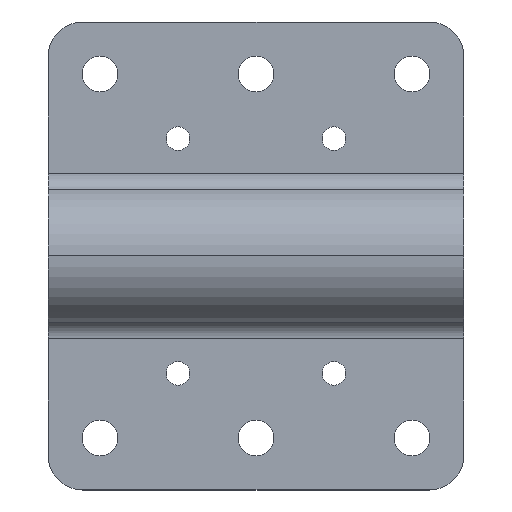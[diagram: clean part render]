
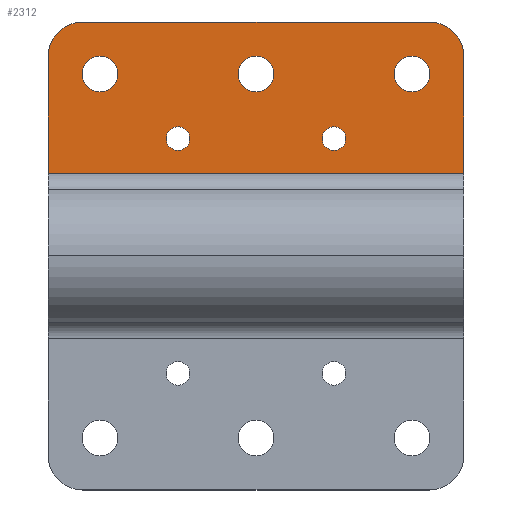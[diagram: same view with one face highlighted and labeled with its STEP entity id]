
A CAD part, top view. The second image highlights one B-rep face of the part: STEP entity #2312.
In plain terms, the highlighted planar face has unit normal (0, 0, 1).
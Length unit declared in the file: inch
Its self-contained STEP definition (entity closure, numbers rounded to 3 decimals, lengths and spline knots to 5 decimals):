
#18 = AXIS2_PLACEMENT_3D ( 'NONE', #1854, #564, #2070 ) ;
#56 = ORIENTED_EDGE ( 'NONE', *, *, #241, .F. ) ;
#66 = ORIENTED_EDGE ( 'NONE', *, *, #2049, .F. ) ;
#76 = DIRECTION ( 'NONE',  ( 0., 0., 1. ) ) ;
#82 = DIRECTION ( 'NONE',  ( 0., 0., -1. ) ) ;
#183 = FACE_BOUND ( 'NONE', #242, .T. ) ;
#203 = ORIENTED_EDGE ( 'NONE', *, *, #1232, .F. ) ;
#209 = DIRECTION ( 'NONE',  ( 0., -1., 0. ) ) ;
#213 = CARTESIAN_POINT ( 'NONE',  ( -1.25, 3.725, 0.125 ) ) ;
#229 = CARTESIAN_POINT ( 'NONE',  ( -1.5, 0.6, 0.125 ) ) ;
#237 = CARTESIAN_POINT ( 'NONE',  ( 0.1285, 3.35, 0.125 ) ) ;
#241 = EDGE_CURVE ( 'NONE', #1572, #2595, #1199, .T. ) ;
#242 = EDGE_LOOP ( 'NONE', ( #646, #981 ) ) ;
#252 = AXIS2_PLACEMENT_3D ( 'NONE', #1022, #2525, #1225 ) ;
#261 = EDGE_LOOP ( 'NONE', ( #538, #1534 ) ) ;
#280 = DIRECTION ( 'NONE',  ( 0., 0., 1. ) ) ;
#281 = VECTOR ( 'NONE', #2358, 39.37008 ) ;
#282 = EDGE_LOOP ( 'NONE', ( #1956, #1488 ) ) ;
#308 = EDGE_CURVE ( 'NONE', #856, #1477, #1074, .T. ) ;
#391 = EDGE_CURVE ( 'NONE', #1885, #2517, #877, .T. ) ;
#395 = CARTESIAN_POINT ( 'NONE',  ( -1.125, 3.35, 0.125 ) ) ;
#439 = VERTEX_POINT ( 'NONE', #1292 ) ;
#483 = EDGE_CURVE ( 'NONE', #2249, #2713, #1808, .T. ) ;
#496 = AXIS2_PLACEMENT_3D ( 'NONE', #1573, #280, #1794 ) ;
#505 = VECTOR ( 'NONE', #843, 39.37008 ) ;
#538 = ORIENTED_EDGE ( 'NONE', *, *, #1913, .F. ) ;
#541 = PLANE ( 'NONE',  #2086 ) ;
#562 = CIRCLE ( 'NONE', #252, 0.085 ) ;
#564 = DIRECTION ( 'NONE',  ( 0., 0., 1. ) ) ;
#600 = DIRECTION ( 'NONE',  ( 0., 0., 1. ) ) ;
#621 = DIRECTION ( 'NONE',  ( -1., 0., 0. ) ) ;
#623 = DIRECTION ( 'NONE',  ( 0., 0., 1. ) ) ;
#646 = ORIENTED_EDGE ( 'NONE', *, *, #391, .F. ) ;
#648 = CARTESIAN_POINT ( 'NONE',  ( -0.1285, 3.35, 0.125 ) ) ;
#649 = VERTEX_POINT ( 'NONE', #2696 ) ;
#652 = CARTESIAN_POINT ( 'NONE',  ( -1.125, 3.35, 0.125 ) ) ;
#655 = AXIS2_PLACEMENT_3D ( 'NONE', #1889, #600, #2105 ) ;
#720 = AXIS2_PLACEMENT_3D ( 'NONE', #2391, #1104, #2605 ) ;
#758 = FACE_OUTER_BOUND ( 'NONE', #1784, .T. ) ;
#789 = CARTESIAN_POINT ( 'NONE',  ( -1.2535, 3.35, 0.125 ) ) ;
#840 = FACE_BOUND ( 'NONE', #1571, .T. ) ;
#843 = DIRECTION ( 'NONE',  ( 1., 0., 0. ) ) ;
#856 = VERTEX_POINT ( 'NONE', #2756 ) ;
#864 = DIRECTION ( 'NONE',  ( -1., 0., 0. ) ) ;
#877 = CIRCLE ( 'NONE', #2655, 0.1285 ) ;
#891 = AXIS2_PLACEMENT_3D ( 'NONE', #1354, #76, #1576 ) ;
#895 = DIRECTION ( 'NONE',  ( 0., 0., 1. ) ) ;
#928 = CIRCLE ( 'NONE', #1447, 0.1285 ) ;
#938 = VECTOR ( 'NONE', #209, 39.37008 ) ;
#948 = ORIENTED_EDGE ( 'NONE', *, *, #483, .F. ) ;
#972 = CIRCLE ( 'NONE', #2442, 0.25 ) ;
#981 = ORIENTED_EDGE ( 'NONE', *, *, #2514, .F. ) ;
#989 = ORIENTED_EDGE ( 'NONE', *, *, #1373, .F. ) ;
#999 = LINE ( 'NONE', #1918, #281 ) ;
#1022 = CARTESIAN_POINT ( 'NONE',  ( -0.5625, 2.88371, 0.125 ) ) ;
#1033 = ORIENTED_EDGE ( 'NONE', *, *, #1174, .F. ) ;
#1074 = LINE ( 'NONE', #1466, #505 ) ;
#1084 = CARTESIAN_POINT ( 'NONE',  ( 1.125, 3.35, 0.125 ) ) ;
#1104 = DIRECTION ( 'NONE',  ( 0., 0., -1. ) ) ;
#1146 = EDGE_CURVE ( 'NONE', #649, #1362, #1567, .T. ) ;
#1174 = EDGE_CURVE ( 'NONE', #2713, #2249, #2016, .T. ) ;
#1179 = CARTESIAN_POINT ( 'NONE',  ( 1.25, 3.725, 0.125 ) ) ;
#1199 = CIRCLE ( 'NONE', #655, 0.1285 ) ;
#1225 = DIRECTION ( 'NONE',  ( -1., 0., 0. ) ) ;
#1232 = EDGE_CURVE ( 'NONE', #1441, #439, #2379, .T. ) ;
#1289 = DIRECTION ( 'NONE',  ( -1., 0., 0. ) ) ;
#1292 = CARTESIAN_POINT ( 'NONE',  ( 1.5, 3.475, 0.125 ) ) ;
#1314 = CARTESIAN_POINT ( 'NONE',  ( 0.9965, 3.35, 0.125 ) ) ;
#1354 = CARTESIAN_POINT ( 'NONE',  ( 1.125, 3.35, 0.125 ) ) ;
#1362 = VERTEX_POINT ( 'NONE', #1790 ) ;
#1370 = ORIENTED_EDGE ( 'NONE', *, *, #2369, .F. ) ;
#1371 = CARTESIAN_POINT ( 'NONE',  ( -1.25, 3.475, 0.125 ) ) ;
#1373 = EDGE_CURVE ( 'NONE', #1928, #1502, #972, .T. ) ;
#1387 = DIRECTION ( 'NONE',  ( 0., 1., 0. ) ) ;
#1425 = VECTOR ( 'NONE', #1932, 39.37008 ) ;
#1441 = VERTEX_POINT ( 'NONE', #1179 ) ;
#1447 = AXIS2_PLACEMENT_3D ( 'NONE', #395, #1903, #621 ) ;
#1466 = CARTESIAN_POINT ( 'NONE',  ( 1.5, 2.63371, 0.125 ) ) ;
#1477 = VERTEX_POINT ( 'NONE', #2364 ) ;
#1488 = ORIENTED_EDGE ( 'NONE', *, *, #2223, .F. ) ;
#1502 = VERTEX_POINT ( 'NONE', #213 ) ;
#1520 = EDGE_CURVE ( 'NONE', #1928, #856, #2082, .T. ) ;
#1534 = ORIENTED_EDGE ( 'NONE', *, *, #1552, .F. ) ;
#1552 = EDGE_CURVE ( 'NONE', #2310, #2215, #2641, .T. ) ;
#1567 = CIRCLE ( 'NONE', #2365, 0.085 ) ;
#1571 = EDGE_LOOP ( 'NONE', ( #1033, #948 ) ) ;
#1572 = VERTEX_POINT ( 'NONE', #237 ) ;
#1573 = CARTESIAN_POINT ( 'NONE',  ( 0.5625, 2.88371, 0.125 ) ) ;
#1576 = DIRECTION ( 'NONE',  ( -1., 0., 0. ) ) ;
#1584 = DIRECTION ( 'NONE',  ( -1., 0., 0. ) ) ;
#1599 = CARTESIAN_POINT ( 'NONE',  ( 1.5, 0., 0.125 ) ) ;
#1749 = ORIENTED_EDGE ( 'NONE', *, *, #1520, .T. ) ;
#1784 = EDGE_LOOP ( 'NONE', ( #989, #1749, #2186, #2576, #203, #66 ) ) ;
#1790 = CARTESIAN_POINT ( 'NONE',  ( 0.6475, 2.88371, 0.125 ) ) ;
#1794 = DIRECTION ( 'NONE',  ( -1., 0., 0. ) ) ;
#1808 = CIRCLE ( 'NONE', #891, 0.1285 ) ;
#1836 = CIRCLE ( 'NONE', #18, 0.1285 ) ;
#1854 = CARTESIAN_POINT ( 'NONE',  ( 0., 3.35, 0.125 ) ) ;
#1885 = VERTEX_POINT ( 'NONE', #789 ) ;
#1889 = CARTESIAN_POINT ( 'NONE',  ( 0., 3.35, 0.125 ) ) ;
#1903 = DIRECTION ( 'NONE',  ( 0., 0., 1. ) ) ;
#1905 = CARTESIAN_POINT ( 'NONE',  ( 0.5625, 2.88371, 0.125 ) ) ;
#1913 = EDGE_CURVE ( 'NONE', #2215, #2310, #562, .T. ) ;
#1918 = CARTESIAN_POINT ( 'NONE',  ( 1.5, 0.6, 0.125 ) ) ;
#1928 = VERTEX_POINT ( 'NONE', #2100 ) ;
#1932 = DIRECTION ( 'NONE',  ( 1., 0., 0. ) ) ;
#1956 = ORIENTED_EDGE ( 'NONE', *, *, #1146, .F. ) ;
#1971 = AXIS2_PLACEMENT_3D ( 'NONE', #2179, #895, #2390 ) ;
#2008 = LINE ( 'NONE', #2763, #1425 ) ;
#2016 = CIRCLE ( 'NONE', #2497, 0.1285 ) ;
#2037 = CARTESIAN_POINT ( 'NONE',  ( -0.4775, 2.88371, 0.125 ) ) ;
#2049 = EDGE_CURVE ( 'NONE', #1502, #1441, #2008, .T. ) ;
#2054 = EDGE_CURVE ( 'NONE', #1477, #439, #999, .T. ) ;
#2070 = DIRECTION ( 'NONE',  ( -1., 0., 0. ) ) ;
#2082 = LINE ( 'NONE', #229, #938 ) ;
#2086 = AXIS2_PLACEMENT_3D ( 'NONE', #1599, #2680, #1387 ) ;
#2100 = CARTESIAN_POINT ( 'NONE',  ( -1.5, 3.475, 0.125 ) ) ;
#2105 = DIRECTION ( 'NONE',  ( -1., 0., 0. ) ) ;
#2126 = DIRECTION ( 'NONE',  ( -1., 0., 0. ) ) ;
#2152 = DIRECTION ( 'NONE',  ( 0., 0., 1. ) ) ;
#2179 = CARTESIAN_POINT ( 'NONE',  ( -0.5625, 2.88371, 0.125 ) ) ;
#2186 = ORIENTED_EDGE ( 'NONE', *, *, #308, .T. ) ;
#2203 = CARTESIAN_POINT ( 'NONE',  ( -0.6475, 2.88371, 0.125 ) ) ;
#2215 = VERTEX_POINT ( 'NONE', #2203 ) ;
#2223 = EDGE_CURVE ( 'NONE', #1362, #649, #2667, .T. ) ;
#2249 = VERTEX_POINT ( 'NONE', #2654 ) ;
#2310 = VERTEX_POINT ( 'NONE', #2037 ) ;
#2311 = CARTESIAN_POINT ( 'NONE',  ( -0.9965, 3.35, 0.125 ) ) ;
#2312 = ADVANCED_FACE ( 'NONE', ( #758, #840, #2471, #183, #2399, #2544 ), #541, .F. ) ;
#2358 = DIRECTION ( 'NONE',  ( 0., 1., 0. ) ) ;
#2364 = CARTESIAN_POINT ( 'NONE',  ( 1.5, 2.63371, 0.125 ) ) ;
#2365 = AXIS2_PLACEMENT_3D ( 'NONE', #1905, #623, #2126 ) ;
#2369 = EDGE_CURVE ( 'NONE', #2595, #1572, #1836, .T. ) ;
#2379 = CIRCLE ( 'NONE', #720, 0.25 ) ;
#2390 = DIRECTION ( 'NONE',  ( -1., 0., 0. ) ) ;
#2391 = CARTESIAN_POINT ( 'NONE',  ( 1.25, 3.475, 0.125 ) ) ;
#2399 = FACE_BOUND ( 'NONE', #282, .T. ) ;
#2400 = EDGE_LOOP ( 'NONE', ( #1370, #56 ) ) ;
#2442 = AXIS2_PLACEMENT_3D ( 'NONE', #1371, #82, #1584 ) ;
#2471 = FACE_BOUND ( 'NONE', #2400, .T. ) ;
#2497 = AXIS2_PLACEMENT_3D ( 'NONE', #1084, #2582, #1289 ) ;
#2514 = EDGE_CURVE ( 'NONE', #2517, #1885, #928, .T. ) ;
#2517 = VERTEX_POINT ( 'NONE', #2311 ) ;
#2525 = DIRECTION ( 'NONE',  ( 0., 0., 1. ) ) ;
#2544 = FACE_BOUND ( 'NONE', #261, .T. ) ;
#2576 = ORIENTED_EDGE ( 'NONE', *, *, #2054, .T. ) ;
#2582 = DIRECTION ( 'NONE',  ( 0., 0., 1. ) ) ;
#2595 = VERTEX_POINT ( 'NONE', #648 ) ;
#2605 = DIRECTION ( 'NONE',  ( -1., 0., 0. ) ) ;
#2641 = CIRCLE ( 'NONE', #1971, 0.085 ) ;
#2654 = CARTESIAN_POINT ( 'NONE',  ( 1.2535, 3.35, 0.125 ) ) ;
#2655 = AXIS2_PLACEMENT_3D ( 'NONE', #652, #2152, #864 ) ;
#2667 = CIRCLE ( 'NONE', #496, 0.085 ) ;
#2680 = DIRECTION ( 'NONE',  ( 0., 0., -1. ) ) ;
#2696 = CARTESIAN_POINT ( 'NONE',  ( 0.4775, 2.88371, 0.125 ) ) ;
#2713 = VERTEX_POINT ( 'NONE', #1314 ) ;
#2756 = CARTESIAN_POINT ( 'NONE',  ( -1.5, 2.63371, 0.125 ) ) ;
#2763 = CARTESIAN_POINT ( 'NONE',  ( 1.5, 3.725, 0.125 ) ) ;
